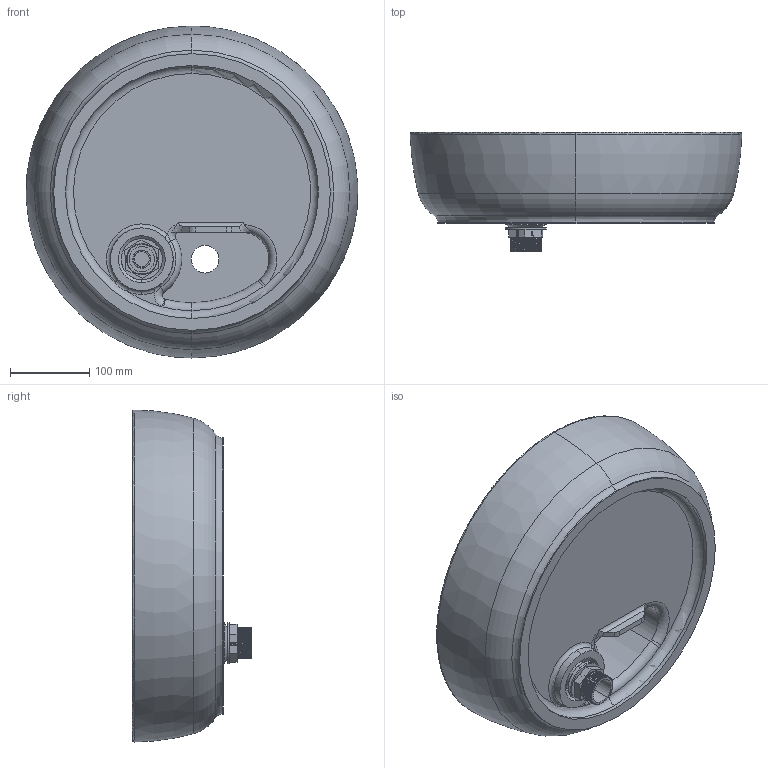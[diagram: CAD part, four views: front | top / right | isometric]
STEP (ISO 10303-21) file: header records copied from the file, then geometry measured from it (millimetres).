
FILE_DESCRIPTION (( 'STEP AP214' ), '1' );
FILE_NAME ('BEN-357A-WITH-WASTE.STEP', '2021-03-01T06:37:27', ( '' ), ( '' ), 'SwSTEP 2.0', 'SolidWorks 2020', '' );
FILE_SCHEMA (( 'AUTOMOTIVE_DESIGN' ));
Length unit declared in the file: millimetre
Products named in the file (9): BEN-357A; WASTE-NUT; WASTE-3; BEN-357A-WITH-WASTE; WASTE-2; 0BG082031-BEN-PUW-05-Esero_Pop-Up-Waste_installed; WASTE-SEAL-2; WASTE-1; WASTE-SEAL-1
Assembly tree (8 placements, depth 3):
  BEN-357A-WITH-WASTE
    BEN-357A
    0BG082031-BEN-PUW-05-Esero_Pop-Up-Waste_installed
      WASTE-1
      WASTE-2
      WASTE-3
      WASTE-SEAL-1
      WASTE-SEAL-2
      WASTE-NUT
Bounding box: 419.58 x 151 x 419.98 mm (x, y, z)
Volume: 4255080.1 mm3; surface area: 619674.1 mm2
Topology: 7 solids, 7 shells, 294 faces, 749 edges, 470 vertices
Faces by surface type: cylinder 132, plane 75, torus 40, bspline 35, cone 12
Entity records: 17672 total; most frequent: CARTESIAN_POINT 10795, ORIENTED_EDGE 1498, DIRECTION 1273, EDGE_CURVE 749, AXIS2_PLACEMENT_3D 506, VERTEX_POINT 470, EDGE_LOOP 317, FACE_OUTER_BOUND 294
